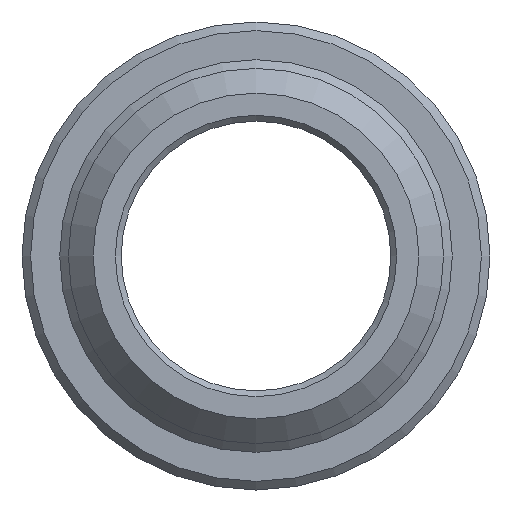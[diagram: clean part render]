
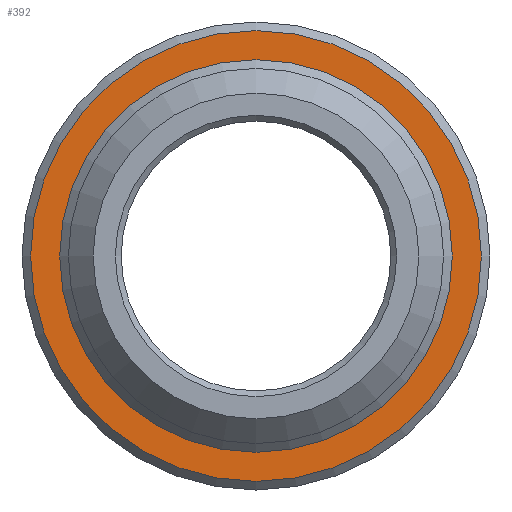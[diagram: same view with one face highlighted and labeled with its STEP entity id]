
A CAD part, front view. The second image highlights one B-rep face of the part: STEP entity #392.
In plain terms, the highlighted planar face has unit normal (0, -1, 0).
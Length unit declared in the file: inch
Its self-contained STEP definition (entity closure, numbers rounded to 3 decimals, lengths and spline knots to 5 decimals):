
#33=FACE_BOUND('',#86,.T.);
#44=PLANE('',#443);
#60=FACE_OUTER_BOUND('',#85,.T.);
#85=EDGE_LOOP('',(#316));
#86=EDGE_LOOP('',(#317));
#158=CIRCLE('',#442,0.34053);
#159=CIRCLE('',#444,0.391);
#195=VERTEX_POINT('',#678);
#196=VERTEX_POINT('',#682);
#243=EDGE_CURVE('',#195,#195,#158,.T.);
#244=EDGE_CURVE('',#196,#196,#159,.T.);
#316=ORIENTED_EDGE('',*,*,#244,.F.);
#317=ORIENTED_EDGE('',*,*,#243,.F.);
#392=ADVANCED_FACE('',(#60,#33),#44,.T.);
#442=AXIS2_PLACEMENT_3D('',#680,#536,#537);
#443=AXIS2_PLACEMENT_3D('',#681,#538,#539);
#444=AXIS2_PLACEMENT_3D('',#683,#540,#541);
#536=DIRECTION('center_axis',(0.,-1.,0.));
#537=DIRECTION('ref_axis',(0.,0.,-1.));
#538=DIRECTION('center_axis',(0.,-1.,0.));
#539=DIRECTION('ref_axis',(0.,0.,-1.));
#540=DIRECTION('center_axis',(0.,1.,0.));
#541=DIRECTION('ref_axis',(0.,0.,1.));
#678=CARTESIAN_POINT('',(0.,8.75,0.34053));
#680=CARTESIAN_POINT('Origin',(0.,8.75,0.));
#681=CARTESIAN_POINT('Origin',(0.,8.75,-0.3375));
#682=CARTESIAN_POINT('',(0.,8.75,-0.391));
#683=CARTESIAN_POINT('Origin',(0.,8.75,0.));
